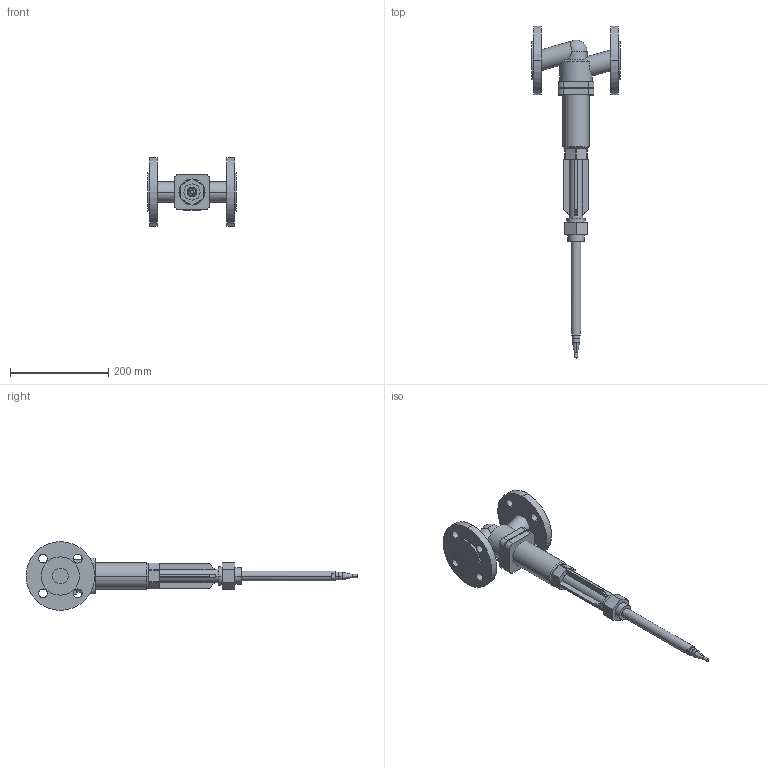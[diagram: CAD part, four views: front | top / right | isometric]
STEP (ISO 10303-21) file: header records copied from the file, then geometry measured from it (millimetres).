
FILE_DESCRIPTION(('CoCreate Modeling STEP Export'),'2;1');
FILE_NAME('c000001245.stp','2011-09-22T10:48:43',(''),(''),'CoCreate Modeling STEP processor for AP214 (Solid Model)','CoCreate Modeling 17.0 01-Apr-2010 (C) Parametric Technology GmbH','');
FILE_SCHEMA(('AUTOMOTIVE_DESIGN { 1 0 10303 214 1 1 1 1 }'));
Length unit declared in the file: millimetre
Products named in the file (1): 1
Bounding box: 180 x 675.94 x 140 mm (x, y, z)
Volume: 1441507.5 mm3; surface area: 188675.3 mm2
Topology: 1 solids, 1 shells, 170 faces, 430 edges, 281 vertices
Faces by surface type: plane 80, cylinder 76, cone 10, torus 2, sphere 2
Entity records: 7515 total; most frequent: CARTESIAN_POINT 2278, ORIENTED_EDGE 856, DIRECTION 727, EDGE_CURVE 428, VERTEX_POINT 281, AXIS2_PLACEMENT_3D 253, VECTOR 221, LINE 221
